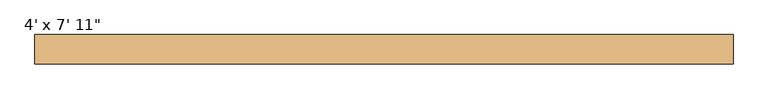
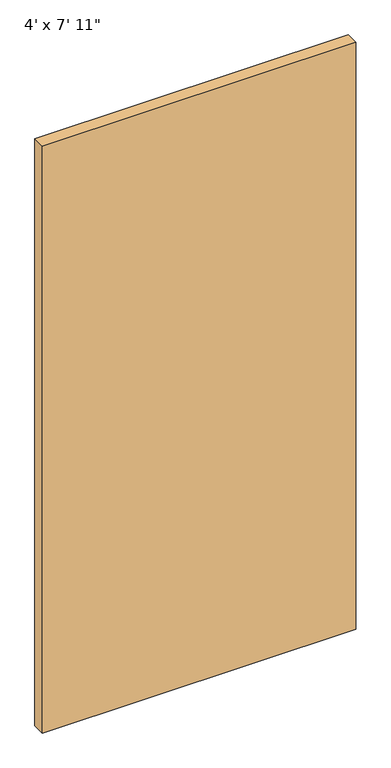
"""IFC4 building model written with IfcOpenShell, lengths in millimetres: door geometry."""

import ifcopenshell
import ifcopenshell.guid

model = None  # the IFC model being written
_history = None  # IfcOwnerHistory: only IFC2X3 demands one
_inside = {}  # id of a spatial element -> (the spatial element, [elements in it])
_under = {}  # id of a project, library or spatial element -> (it, [spatial elements below it])
_declared = {}  # id of a project -> (the project, [libraries it declares])
_typed = {}  # id of a type object -> (the type object, [elements of that type])
_made_of = {}  # id of a material, layer set ... -> (it, [elements and type objects made of it])


def new_model(schema):
    """Start an empty IFC model of exactly this schema.

    Asked for "IFC4X3", IfcOpenShell would pick the latest addendum, in which some entities
    have other attributes; the version numbers below select the first issue.
    IFC2X3 requires an IfcOwnerHistory on every rooted entity: one is made here for all.
    """
    global model, _history
    if schema == "IFC4X3":
        model = ifcopenshell.file(schema_version=(4, 3, 0, 0))
    else:
        model = ifcopenshell.file(schema=schema)
    _inside.clear()
    _under.clear()
    _declared.clear()
    _typed.clear()
    _made_of.clear()
    _history = None
    if model.schema == "IFC2X3":
        org = make("IfcOrganization", Name="unknown")
        user = make(
            "IfcPersonAndOrganization",
            ThePerson=make("IfcPerson", FamilyName="unknown"),
            TheOrganization=org,
        )
        app = make(
            "IfcApplication",
            ApplicationDeveloper=org,
            Version="unknown",
            ApplicationFullName="unknown",
            ApplicationIdentifier="unknown",
        )
        _history = make(
            "IfcOwnerHistory",
            OwningUser=user,
            OwningApplication=app,
            ChangeAction="ADDED",
            CreationDate=0,
        )
    return model


def make(cls, **values):
    """One entity of the class cls with the attributes given. An attribute that is None is left unset."""
    return model.create_entity(
        cls, **{name: value for name, value in values.items() if value is not None}
    )


def rooted(cls, **values):
    """An entity with a GlobalId (a new one), such as an element, a storey or a relation."""
    return make(cls, GlobalId=ifcopenshell.guid.new(), OwnerHistory=_history, **values)


def si_unit(unit_type, name, prefix=None):
    """IfcSIUnit, for example si_unit("LENGTHUNIT", "METRE", prefix="MILLI")."""
    return make("IfcSIUnit", UnitType=unit_type, Prefix=prefix, Name=name)


def assignment(units):
    """IfcUnitAssignment: the units of a project."""
    return None if units is None else make("IfcUnitAssignment", Units=units)


def point(xyz):
    """IfcCartesianPoint."""
    return None if xyz is None else make("IfcCartesianPoint", Coordinates=xyz)


def direction(xyz):
    """IfcDirection."""
    return None if xyz is None else make("IfcDirection", DirectionRatios=xyz)


def frame(location, z_axis=None, x_axis=None):
    """IfcAxis2Placement3D, a coordinate frame: its origin and axes. An axis left out is left unset."""
    return make(
        "IfcAxis2Placement3D",
        Location=point(location),
        Axis=direction(z_axis),
        RefDirection=direction(x_axis),
    )


def origin():
    """The frame at (0, 0, 0) with its axes left unset."""
    return frame((0.0, 0.0, 0.0))


def origin_with_axes():
    """The frame at (0, 0, 0) with the z axis (0, 0, 1) and the x axis (1, 0, 0) written out."""
    return frame((0.0, 0.0, 0.0), z_axis=(0.0, 0.0, 1.0), x_axis=(1.0, 0.0, 0.0))


def place(relative_to, where):
    """IfcLocalPlacement: puts the frame where relative to a parent placement (None: the world)."""
    return make(
        "IfcLocalPlacement", PlacementRelTo=relative_to, RelativePlacement=where
    )


def context(
    kind, dimensions, precision=None, world=None, true_north=None, identifier=None
):
    """IfcGeometricRepresentationContext, for example the 3D "Model" context."""
    return make(
        "IfcGeometricRepresentationContext",
        ContextIdentifier=identifier,
        ContextType=kind,
        CoordinateSpaceDimension=dimensions,
        Precision=precision,
        WorldCoordinateSystem=world,
        TrueNorth=true_north,
    )


def project(units=None, contexts=None):
    """IfcProject with its units and contexts."""
    return rooted(
        "IfcProject",
        Name="project",
        RepresentationContexts=contexts,
        UnitsInContext=assignment(units),
    )


def spatial(cls, under=None, at=None, **own):
    """A site, building, storey or space (cls), placed at a placement, below another one or the project."""
    s = rooted(cls, ObjectPlacement=at, **own)
    if under is not None:
        _under.setdefault(under.id(), (under, []))[1].append(s)
    return s


def polyline(points):
    """IfcPolyline through the points."""
    return make("IfcPolyline", Points=[point(p) for p in points])


def outline(outer, holes=None, kind="AREA"):
    """IfcArbitraryClosedProfileDef: a profile drawn as a closed curve; with holes, ...WithVoids."""
    if holes is None:
        return make("IfcArbitraryClosedProfileDef", ProfileType=kind, OuterCurve=outer)
    return make(
        "IfcArbitraryProfileDefWithVoids",
        ProfileType=kind,
        OuterCurve=outer,
        InnerCurves=holes,
    )


def extrude(swept, where, along, depth):
    """IfcExtrudedAreaSolid: the profile swept, set in the frame where, extruded along a direction by depth."""
    return make(
        "IfcExtrudedAreaSolid",
        SweptArea=swept,
        Position=where,
        ExtrudedDirection=direction(along),
        Depth=depth,
    )


def shape(context_of_items, identifier, shape_type, items):
    """IfcShapeRepresentation: the items that make up one representation, for example the "Body"."""
    return make(
        "IfcShapeRepresentation",
        ContextOfItems=context_of_items,
        RepresentationIdentifier=identifier,
        RepresentationType=shape_type,
        Items=items,
    )


def source(mapping_origin, context_of_items, identifier, shape_type, items):
    """IfcRepresentationMap: a shape defined once, which mapped items show again and again."""
    return make(
        "IfcRepresentationMap",
        MappingOrigin=mapping_origin,
        MappedRepresentation=shape(context_of_items, identifier, shape_type, items),
    )


def transform(
    local_origin,
    x_axis=None,
    y_axis=None,
    z_axis=None,
    scale=None,
    scale2=None,
    scale3=None,
    uniform=True,
):
    """IfcCartesianTransformationOperator3D, or its non-uniform kind. x_axis, y_axis, z_axis: its Axis1, 2, 3."""
    if uniform:
        return make(
            "IfcCartesianTransformationOperator3D",
            Axis1=direction(x_axis),
            Axis2=direction(y_axis),
            LocalOrigin=point(local_origin),
            Scale=scale,
            Axis3=direction(z_axis),
        )
    return make(
        "IfcCartesianTransformationOperator3DnonUniform",
        Axis1=direction(x_axis),
        Axis2=direction(y_axis),
        LocalOrigin=point(local_origin),
        Scale=scale,
        Axis3=direction(z_axis),
        Scale2=scale2,
        Scale3=scale3,
    )


def mapped(mapping_source, mapping_target):
    """IfcMappedItem: shows the shape of a source again, moved by a transform."""
    return make(
        "IfcMappedItem", MappingSource=mapping_source, MappingTarget=mapping_target
    )


def made_of(thing, what):
    """Note that an element or type object is made of a material, layer set ...; save() writes the relation."""
    if what is not None:
        _made_of.setdefault(what.id(), (what, []))[1].append(thing)
    return thing


def element(
    cls,
    number,
    at=None,
    inside=None,
    cuts=None,
    type_object=None,
    material=None,
    context=None,
    identifier="Body",
    shape_type=None,
    held_by="IfcProductDefinitionShape",
    body=None,
    shapes=None,
    **own,
):
    """One element of the class cls, such as IfcWall. Its Tag is "e" and its number.

    at: its placement. inside: the storey or other place that contains it. cuts: it is an
    opening in that element (IfcRelVoidsElement). A single representation is given by context,
    identifier, shape_type and body (its items); several are given by shapes. held_by: the class
    of the entity that holds the representations. save() writes the other relations.
    """
    e = rooted(cls, Tag="e%d" % number, ObjectPlacement=at, **own)
    if body is not None:
        shapes = [shape(context, identifier, shape_type, body)]
    if shapes is not None:
        e.Representation = make(held_by, Representations=shapes)
    if inside is not None:
        _inside.setdefault(inside.id(), (inside, []))[1].append(e)
    if cuts is not None:
        rooted(
            "IfcRelVoidsElement", RelatingBuildingElement=cuts, RelatedOpeningElement=e
        )
    if type_object is not None:
        _typed.setdefault(type_object.id(), (type_object, []))[1].append(e)
    return made_of(e, material)


def aggregate(whole, parts):
    """IfcRelAggregates: a whole, such as a stair, and the parts it consists of."""
    return rooted("IfcRelAggregates", RelatingObject=whole, RelatedObjects=parts)


def save(model, path):
    """Write the relations noted so far, then the file.

    IfcRelAggregates (storeys below a building ...), IfcRelContainedInSpatialStructure (elements
    in a storey), IfcRelDefinesByType, IfcRelAssociatesMaterial and IfcRelDeclares: one each for
    every whole, place, type object, material and project.
    """
    for whole, parts in _under.values():
        aggregate(whole, parts)
    for where, things in _inside.values():
        rooted(
            "IfcRelContainedInSpatialStructure",
            RelatedElements=things,
            RelatingStructure=where,
        )
    for kind, things in _typed.values():
        rooted("IfcRelDefinesByType", RelatedObjects=things, RelatingType=kind)
    for what, things in _made_of.values():
        rooted("IfcRelAssociatesMaterial", RelatedObjects=things, RelatingMaterial=what)
    for by, libraries in _declared.values():
        rooted("IfcRelDeclares", RelatingContext=by, RelatedDefinitions=libraries)
    model.write(path)


def door_a7bdbd55(model_context):
    return source(origin(), model_context, "Body", "SweptSolid", [
        extrude(outline(polyline([(609.6, 31.5515625), (-609.6, 31.5515625), (-609.6, 82.55), (609.6, 82.55), (609.6, 31.5515625)])), origin_with_axes(), (0.0, 0.0, 1.0), 2413.0),
    ])


if __name__ == "__main__":
    model = new_model("IFC4")
    model_context = context("Model", 3, world=origin())
    ifc_project = project(units=[si_unit("LENGTHUNIT", "METRE", prefix="MILLI")], contexts=[model_context])
    site = spatial("IfcSite", under=ifc_project)
    building = spatial("IfcBuilding", under=site)
    placement = place(None, origin())
    door_shape = door_a7bdbd55(model_context)
    element("IfcDoor", 1, ObjectType="Planitar - Single Door_Flush Panel : 4' x 7' 11\"", at=placement, inside=building, context=model_context, shape_type="MappedRepresentation", body=[
        mapped(door_shape, transform((0.0, 0.0, 0.0), x_axis=(1.0, 0.0, 0.0), y_axis=(0.0, 1.0, 0.0), z_axis=(0.0, 0.0, 1.0))),
    ])
    save(model, "model.ifc")
